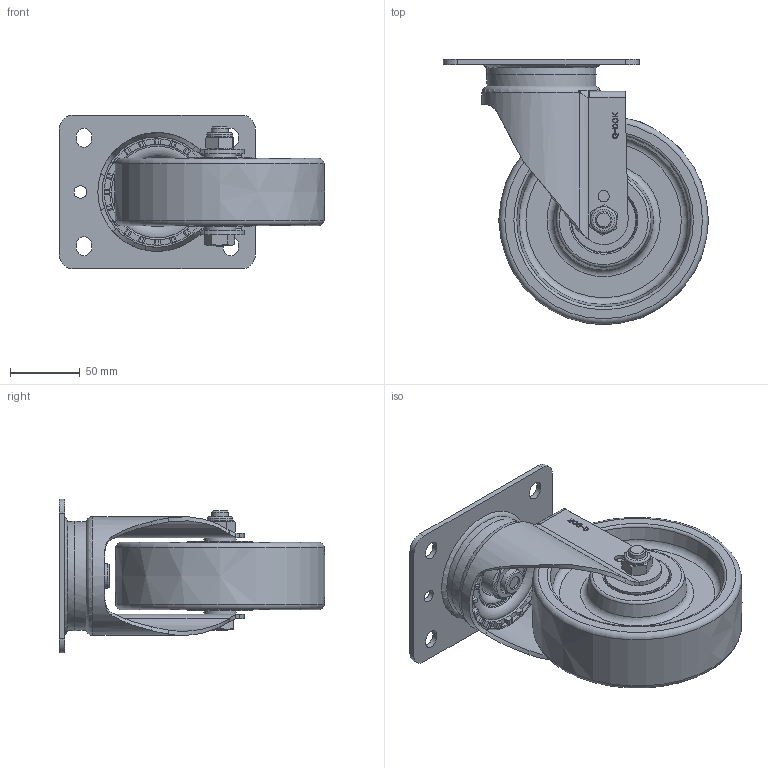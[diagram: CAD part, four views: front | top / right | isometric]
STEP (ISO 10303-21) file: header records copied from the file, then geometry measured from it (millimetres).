
FILE_DESCRIPTION(/* description */ (''),/* implementation_level */ '2;1');
FILE_NAME(/* name */ '\\192.168.10.38\지덕공유\1.기술연구소\2.연구개발 진행중\124.SPH-Series_중하중_2025.02.11\1.도면\2. 3D\홈페이지용\SPH-150-ASF-NYD-PEU.stp',/* time_stamp */ '2026-05-19T17:27:45+09:00',/* author */ ('admin'),/* organization */ ('지덕산업'),/* preprocessor_version */ 'ST-DEVELOPER v18.1',/* originating_system */ 'Autodesk Inventor 2021',/* authorisation */ '');
FILE_SCHEMA (('AUTOMOTIVE_DESIGN { 1 0 10303 214 3 1 1 }'));
Length unit declared in the file: millimetre
Products named in the file (1): SPH-150-ASF-NYD-PEU
Bounding box: 189.5 x 189.96 x 110 mm (x, y, z)
Volume: 822785.1 mm3; surface area: 147060.6 mm2
Topology: 1 solids, 1 shells, 1197 faces, 3221 edges, 2114 vertices
Faces by surface type: plane 550, bspline 440, cylinder 142, cone 35, torus 30
Full cylindrical faces by diameter (mm): 8 x2, 9 x2, 10 x1, 12 x1, 18 x2, 18.5 x1, 31 x1, 31.177 x1, 46.001 x2, 47 x2
Entity records: 40310 total; most frequent: CARTESIAN_POINT 13202, ORIENTED_EDGE 6438, DIRECTION 4117, EDGE_CURVE 3219, VERTEX_POINT 2114, LINE 1861, VECTOR 1861, EDGE_LOOP 1305
